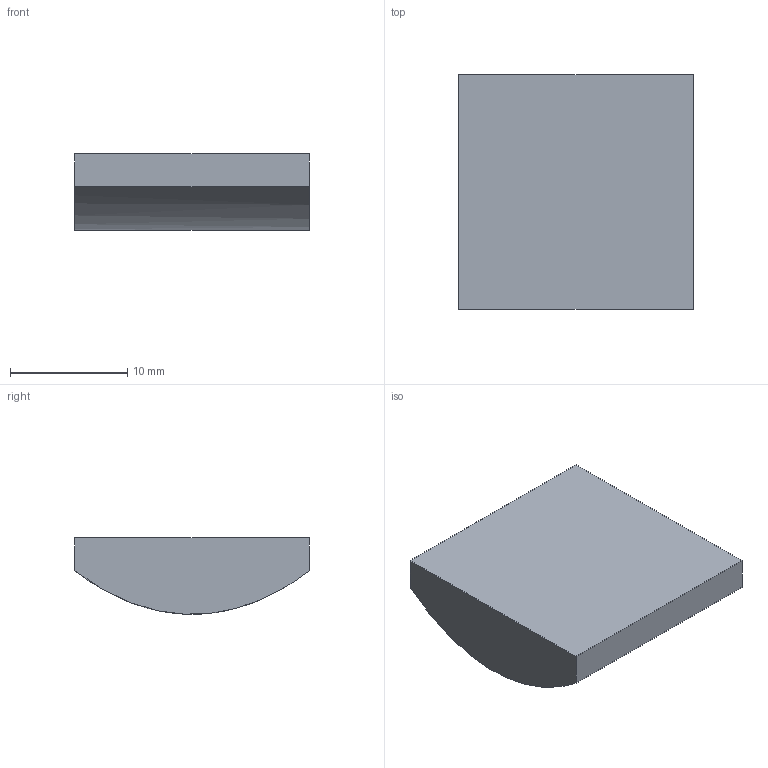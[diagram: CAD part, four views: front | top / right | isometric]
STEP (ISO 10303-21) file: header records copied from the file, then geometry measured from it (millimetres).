
FILE_DESCRIPTION ((), '1');
FILE_NAME ('\\fileserver\Daten\Applikationen\Optikdesign\SPA-Design\aktuelle SPA-Designs\Linsenkataloge - 2016-Juni\Zemax\CHL\CHL20-18.STP', '2016-05-24T14:27:25', ('Unknown'), ('Unknown'), 'HarmonyWare STEP v2.0.1', 'HarmonyWare Translators', '');
FILE_SCHEMA (('CONFIG_CONTROL_DESIGN'));
Length unit declared in the file: millimetre
Products named in the file (1): NONE
Bounding box: 20 x 20 x 6.51 mm (x, y, z)
Volume: 2118.8 mm3; surface area: 1158.5 mm2
Topology: 1 solids, 1 shells, 6 faces, 12 edges, 8 vertices
Faces by surface type: plane 3, bspline 3
Entity records: 374 total; most frequent: CARTESIAN_POINT 191, ORIENTED_EDGE 24, B_SPLINE_CURVE_WITH_KNOTS 12, EDGE_CURVE 12, VERTEX_POINT 8, PERSON 8, ORGANIZATION 8, PERSON_AND_ORGANIZATION 8
